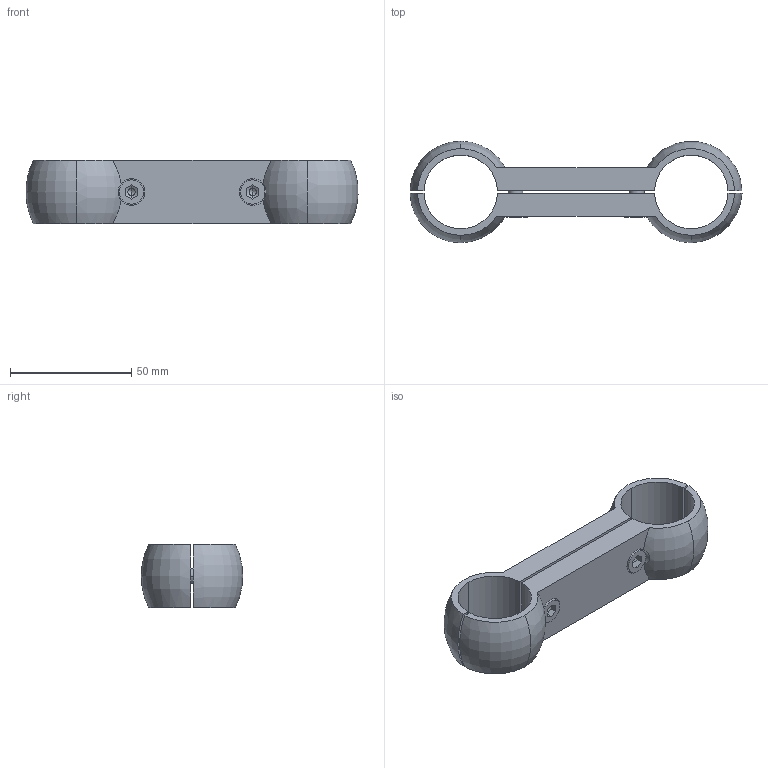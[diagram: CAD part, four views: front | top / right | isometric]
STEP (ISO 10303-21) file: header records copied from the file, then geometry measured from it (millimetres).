
FILE_DESCRIPTION (( 'STEP AP214' ), '1' );
FILE_NAME ('31000410054.STEP', '2024-09-02T13:36:04', ( '' ), ( '' ), 'SwSTEP 2.0', 'SolidWorks 2016', '' );
FILE_SCHEMA (( 'AUTOMOTIVE_DESIGN' ));
Length unit declared in the file: millimetre
Products named in the file (4): 1681c_Schale 2; DIN 6912  (Regelgewinde) M6 x 10; 31000410054; 1681c_Schale 1
Assembly tree (4 placements, depth 2):
  31000410054
    1681c_Schale 1
    1681c_Schale 2
    DIN 6912  (Regelgewinde) M6 x 10  x2
Bounding box: 136.84 x 41.9 x 26 mm (x, y, z)
Volume: 54844.7 mm3; surface area: 22514.6 mm2
Topology: 4 solids, 4 shells, 85 faces, 217 edges, 138 vertices
Faces by surface type: plane 32, cylinder 30, cone 16, torus 7
Entity records: 2996 total; most frequent: CARTESIAN_POINT 562, DIRECTION 356, ORIENTED_EDGE 318, EDGE_CURVE 159, AXIS2_PLACEMENT_3D 145, VERTEX_POINT 105, UNCERTAINTY_MEASURE_WITH_UNIT 74, CIRCLE 74
